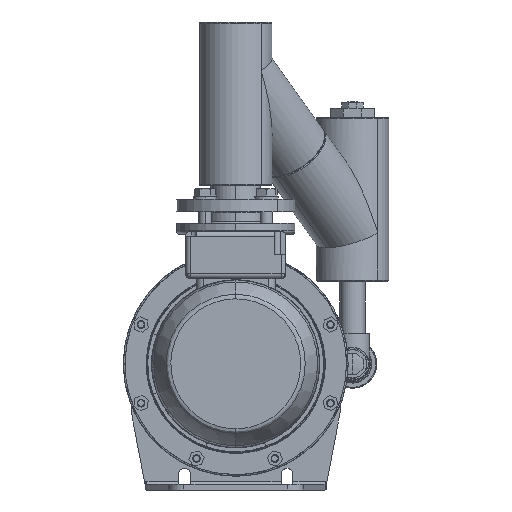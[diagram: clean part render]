
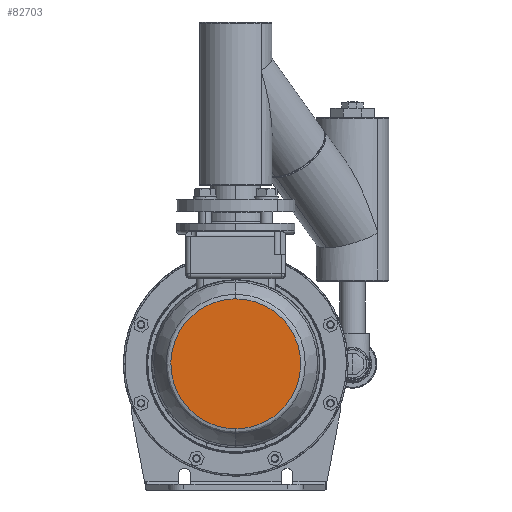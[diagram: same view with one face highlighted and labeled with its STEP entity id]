
A CAD part, front view. The second image highlights one B-rep face of the part: STEP entity #82703.
In plain terms, the highlighted planar face has unit normal (0, -1, 0).
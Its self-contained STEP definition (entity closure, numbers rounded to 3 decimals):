
#7880 = CARTESIAN_POINT ( 'NONE',  ( -154.478, -718.887, -57.337 ) ) ;
#7996 = CARTESIAN_POINT ( 'NONE',  ( -154.478, -718.887, 107.337 ) ) ;
#7998 = CARTESIAN_POINT ( 'NONE',  ( -319.153, -718.887, 107.337 ) ) ;
#8000 = CARTESIAN_POINT ( 'NONE',  ( -319.153, -718.887, -57.337 ) ) ;
#8002 = CARTESIAN_POINT ( 'NONE',  ( -154.478, -718.887, -57.337 ) ) ;
#8016 =( BOUNDED_CURVE ( )  B_SPLINE_CURVE ( 3, ( #8002, #8000, #7998, #7996 ),
 .UNSPECIFIED., .F., .T. ) 
 B_SPLINE_CURVE_WITH_KNOTS ( ( 4, 4 ),
 ( 0., 1. ),
 .UNSPECIFIED. ) 
 CURVE ( )  GEOMETRIC_REPRESENTATION_ITEM ( )  RATIONAL_B_SPLINE_CURVE ( ( 1., 0.333, 0.333, 1. ) ) 
 REPRESENTATION_ITEM ( '' )  );
#8239 = CARTESIAN_POINT ( 'NONE',  ( -154.478, -718.887, 107.337 ) ) ;
#19634 = EDGE_LOOP ( 'NONE', ( #81245, #81135 ) ) ;
#21429 = PLANE ( 'NONE',  #21446 ) ;
#21435 = DIRECTION ( 'NONE',  ( 0., -1., 0. ) ) ;
#21440 = CARTESIAN_POINT ( 'NONE',  ( -154.478, -718.887, 25. ) ) ;
#21446 = AXIS2_PLACEMENT_3D ( 'NONE', #21440, #21435, #21613 ) ;
#21518 = FACE_OUTER_BOUND ( 'NONE', #19634, .T. ) ;
#21613 = DIRECTION ( 'NONE',  ( 1., 0., 0. ) ) ;
#81135 = ORIENTED_EDGE ( 'NONE', *, *, #81253, .F. ) ;
#81245 = ORIENTED_EDGE ( 'NONE', *, *, #96487, .F. ) ;
#81253 = EDGE_CURVE ( 'NONE', #96552, #96453, #102534, .T. ) ;
#82703 = ADVANCED_FACE ( 'NONE', ( #21518 ), #21429, .T. ) ;
#96453 = VERTEX_POINT ( 'NONE', #7880 ) ;
#96487 = EDGE_CURVE ( 'NONE', #96453, #96552, #8016, .T. ) ;
#96552 = VERTEX_POINT ( 'NONE', #8239 ) ;
#102517 = CARTESIAN_POINT ( 'NONE',  ( -154.478, -718.887, -57.337 ) ) ;
#102518 = CARTESIAN_POINT ( 'NONE',  ( 10.196, -718.887, -57.337 ) ) ;
#102519 = CARTESIAN_POINT ( 'NONE',  ( 10.196, -718.887, 107.337 ) ) ;
#102520 = CARTESIAN_POINT ( 'NONE',  ( -154.478, -718.887, 107.337 ) ) ;
#102534 =( BOUNDED_CURVE ( )  B_SPLINE_CURVE ( 3, ( #102520, #102519, #102518, #102517 ),
 .UNSPECIFIED., .F., .F. ) 
 B_SPLINE_CURVE_WITH_KNOTS ( ( 4, 4 ),
 ( 0., 1. ),
 .UNSPECIFIED. ) 
 CURVE ( )  GEOMETRIC_REPRESENTATION_ITEM ( )  RATIONAL_B_SPLINE_CURVE ( ( 1., 0.333, 0.333, 1. ) ) 
 REPRESENTATION_ITEM ( '' )  );
